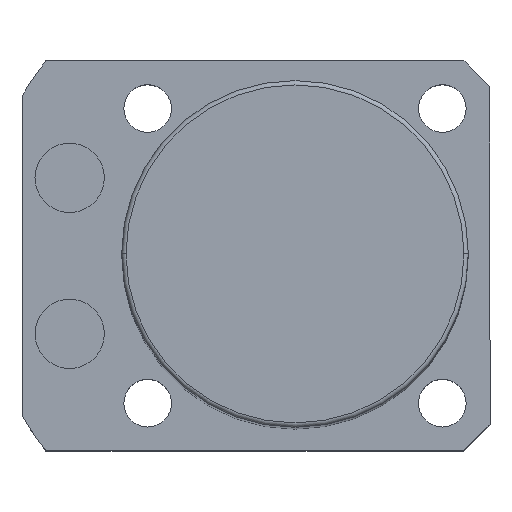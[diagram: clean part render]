
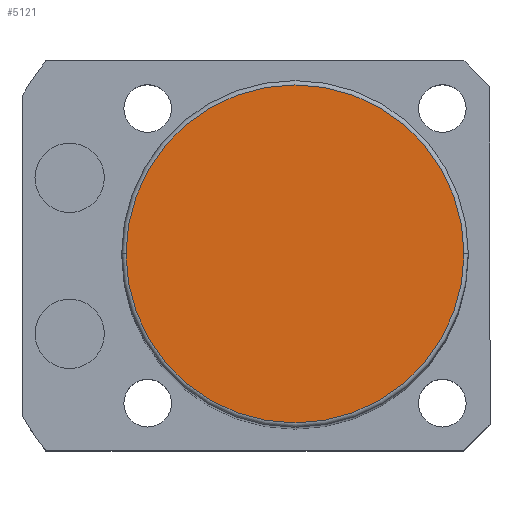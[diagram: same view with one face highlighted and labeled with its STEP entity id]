
A CAD part, top view. The second image highlights one B-rep face of the part: STEP entity #5121.
In plain terms, the highlighted planar face has unit normal (0, 0, 1).
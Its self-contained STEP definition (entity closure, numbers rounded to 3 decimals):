
#335 = DIRECTION ( 'NONE',  ( 1., 0., 0. ) ) ;
#761 = AXIS2_PLACEMENT_3D ( 'NONE', #3825, #4778, #3884 ) ;
#1076 = DIRECTION ( 'NONE',  ( 0., 0., 1. ) ) ;
#1514 = PLANE ( 'NONE',  #2149 ) ;
#1781 = EDGE_CURVE ( 'NONE', #4802, #3031, #2400, .T. ) ;
#1863 = ORIENTED_EDGE ( 'NONE', *, *, #1781, .T. ) ;
#2149 = AXIS2_PLACEMENT_3D ( 'NONE', #4305, #5676, #335 ) ;
#2400 = CIRCLE ( 'NONE', #4568, 19.5 ) ;
#2474 = CARTESIAN_POINT ( 'NONE',  ( 0., 0., 138.5 ) ) ;
#2635 = FACE_OUTER_BOUND ( 'NONE', #3808, .T. ) ;
#3031 = VERTEX_POINT ( 'NONE', #5053 ) ;
#3284 = CIRCLE ( 'NONE', #761, 19.5 ) ;
#3344 = DIRECTION ( 'NONE',  ( 1., 0., 0. ) ) ;
#3609 = CARTESIAN_POINT ( 'NONE',  ( 19.5, 0., 138.5 ) ) ;
#3626 = EDGE_CURVE ( 'NONE', #3031, #4802, #3284, .T. ) ;
#3808 = EDGE_LOOP ( 'NONE', ( #1863, #5549 ) ) ;
#3825 = CARTESIAN_POINT ( 'NONE',  ( 0., 0., 138.5 ) ) ;
#3884 = DIRECTION ( 'NONE',  ( 1., 0., 0. ) ) ;
#4305 = CARTESIAN_POINT ( 'NONE',  ( 0., 0., 138.5 ) ) ;
#4568 = AXIS2_PLACEMENT_3D ( 'NONE', #2474, #1076, #3344 ) ;
#4778 = DIRECTION ( 'NONE',  ( 0., 0., 1. ) ) ;
#4802 = VERTEX_POINT ( 'NONE', #3609 ) ;
#5053 = CARTESIAN_POINT ( 'NONE',  ( -19.5, 0., 138.5 ) ) ;
#5121 = ADVANCED_FACE ( 'NONE', ( #2635 ), #1514, .T. ) ;
#5549 = ORIENTED_EDGE ( 'NONE', *, *, #3626, .T. ) ;
#5676 = DIRECTION ( 'NONE',  ( 0., 0., 1. ) ) ;
